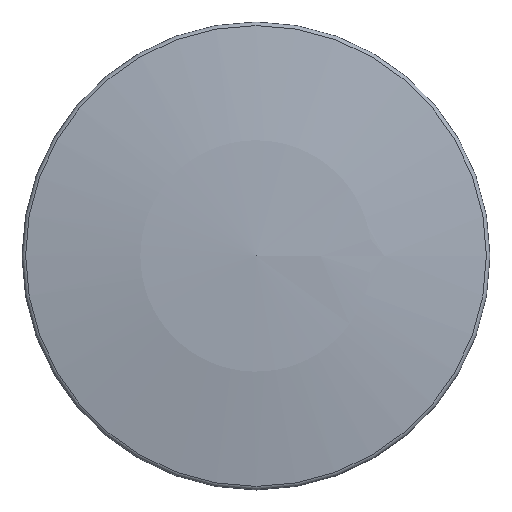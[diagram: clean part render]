
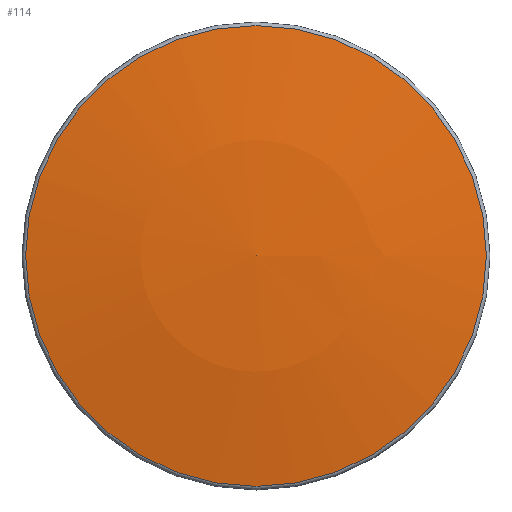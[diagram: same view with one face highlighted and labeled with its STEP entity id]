
A CAD part, top view. The second image highlights one B-rep face of the part: STEP entity #114.
In plain terms, the highlighted spherical face has radius 289.083 mm.
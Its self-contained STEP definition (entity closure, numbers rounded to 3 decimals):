
#28=FACE_OUTER_BOUND($,#38,.T.);
#38=EDGE_LOOP($,(#83));
#56=CIRCLE($,#128,52.181);
#65=VERTEX_POINT($,#188);
#74=EDGE_CURVE($,#65,#65,#56,.T.);
#83=ORIENTED_EDGE($,*,*,#74,.F.);
#101=SPHERICAL_SURFACE($,#127,289.083);
#114=ADVANCED_FACE($,(#28),#101,.T.);
#127=AXIS2_PLACEMENT_3D($,#187,#148,#149);
#128=AXIS2_PLACEMENT_3D($,#189,#150,#151);
#148=DIRECTION('center_axis',(0.,0.,1.));
#149=DIRECTION('ref_axis',(1.,0.,0.));
#150=DIRECTION('center_axis',(0.,0.,-1.));
#151=DIRECTION('ref_axis',(1.,0.,0.));
#187=CARTESIAN_POINT('Origin',(0.,0.,-229.583));
#188=CARTESIAN_POINT('',(0.,52.181,54.752));
#189=CARTESIAN_POINT('Origin',(0.,0.,54.752));
